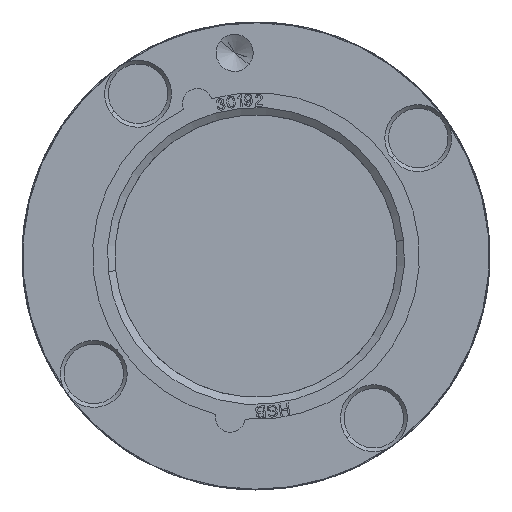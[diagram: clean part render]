
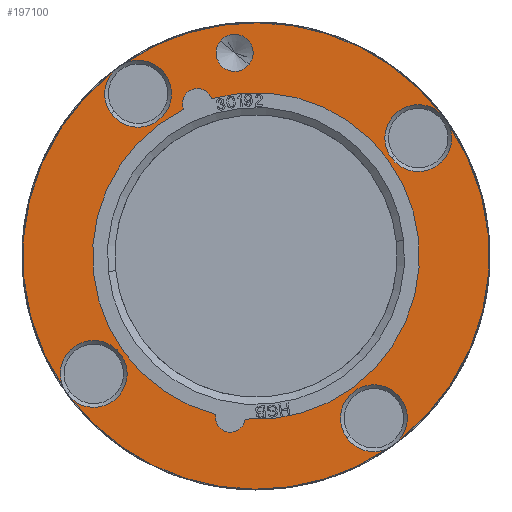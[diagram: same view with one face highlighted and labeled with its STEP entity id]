
A CAD part, left-side view. The second image highlights one B-rep face of the part: STEP entity #197100.
In plain terms, the highlighted planar face has unit normal (-1, 0, 0).
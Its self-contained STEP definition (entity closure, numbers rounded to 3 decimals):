
#195200=CARTESIAN_POINT('',(0.,-21.006,
6.538));
#195210=VERTEX_POINT('',#195200);
#195240=CARTESIAN_POINT('',(0.,0.,
0.));
#195250=DIRECTION('',(-1.,0.,0.));
#195260=DIRECTION('',(0.,-0.383,
0.924));
#195270=AXIS2_PLACEMENT_3D('',#195240,#195250,#195260);
#195280=CIRCLE('',#195270,22.);
#195290=CARTESIAN_POINT('',(0.,11.752,
-18.598));
#195300=VERTEX_POINT('',#195290);
#195310=EDGE_CURVE('',#195300,#195210,#195280,.T.);
#195420=CARTESIAN_POINT('',(0.,0.,
0.));
#195430=DIRECTION('',(-1.,0.,0.));
#195440=DIRECTION('',(0.,-0.383,
0.924));
#195450=AXIS2_PLACEMENT_3D('',#195420,#195430,#195440);
#195460=CIRCLE('',#195450,22.);
#195470=CARTESIAN_POINT('',(0.,-19.477,
10.23));
#195480=VERTEX_POINT('',#195470);
#195490=CARTESIAN_POINT('',(0.,14.922,
-16.165));
#195500=VERTEX_POINT('',#195490);
#195510=EDGE_CURVE('',#195480,#195500,#195460,.T.);
#195770=CARTESIAN_POINT('',(0.,-20.325,
8.419));
#195780=DIRECTION('',(-1.,0.,0.));
#195790=DIRECTION('',(0.,0.383,
0.924));
#195800=AXIS2_PLACEMENT_3D('',#195770,#195780,#195790);
#195810=CIRCLE('',#195800,2.);
#195820=EDGE_CURVE('',#195210,#195480,#195810,.T.);
#195870=CARTESIAN_POINT('',(0.,-28.096,
-12.471));
#195880=DIRECTION('',(-1.,0.,0.));
#195890=DIRECTION('',(0.,0.924,
-0.383));
#195900=AXIS2_PLACEMENT_3D('',#195870,#195880,#195890);
#195910=PLANE('',#195900);
#195920=CARTESIAN_POINT('',(0.,21.817,
-16.741));
#195930=DIRECTION('',(-1.,0.,0.));
#195940=DIRECTION('',(0.,-0.131,
0.991));
#195950=AXIS2_PLACEMENT_3D('',#195920,#195930,#195940);
#195960=CIRCLE('',#195950,2.5);
#195970=CARTESIAN_POINT('',(0.,21.491,
-14.262));
#195980=VERTEX_POINT('',#195970);
#195990=CARTESIAN_POINT('',(0.,22.144,
-19.22));
#196000=VERTEX_POINT('',#195990);
#196010=EDGE_CURVE('',#195980,#196000,#195960,.T.);
#196020=ORIENTED_EDGE('',*,*,#196010,.F.);
#196030=EDGE_CURVE('',#196000,#195980,#195960,.T.);
#196040=ORIENTED_EDGE('',*,*,#196030,.F.);
#196050=EDGE_LOOP('',(#196040,#196020));
#196060=FACE_BOUND('',#196050,.T.);
#196070=ORIENTED_EDGE('',*,*,#195510,.F.);
#196080=CARTESIAN_POINT('',(0.,13.393,
-17.454));
#196090=DIRECTION('',(-1.,0.,0.));
#196100=DIRECTION('',(0.,0.793,
0.609));
#196110=AXIS2_PLACEMENT_3D('',#196080,#196090,#196100);
#196120=CIRCLE('',#196110,2.);
#196130=EDGE_CURVE('',#195500,#195300,#196120,.T.);
#196140=ORIENTED_EDGE('',*,*,#196130,.F.);
#196150=ORIENTED_EDGE('',*,*,#195310,.F.);
#196160=ORIENTED_EDGE('',*,*,#195820,.F.);
#196170=EDGE_LOOP('',(#196160,#196150,#196140,#196070));
#196180=FACE_BOUND('',#196170,.T.);
#196190=CARTESIAN_POINT('',(0.,-10.332,
24.945));
#196200=DIRECTION('',(-1.,0.,0.));
#196210=DIRECTION('',(0.,0.924,
0.383));
#196220=AXIS2_PLACEMENT_3D('',#196190,#196200,#196210);
#196230=CIRCLE('',#196220,4.5);
#196240=CARTESIAN_POINT('',(0.,-11.07,
29.384));
#196250=VERTEX_POINT('',#196240);
#196260=CARTESIAN_POINT('',(0.,-6.175,
26.667));
#196270=VERTEX_POINT('',#196260);
#196280=EDGE_CURVE('',#196250,#196270,#196230,.T.);
#196290=ORIENTED_EDGE('',*,*,#196280,.F.);
#196300=CARTESIAN_POINT('',(0.,-14.49,
23.223));
#196310=VERTEX_POINT('',#196300);
#196320=EDGE_CURVE('',#196270,#196310,#196230,.T.);
#196330=ORIENTED_EDGE('',*,*,#196320,.F.);
#196340=CARTESIAN_POINT('',(0.,-12.95,
28.605));
#196350=VERTEX_POINT('',#196340);
#196360=EDGE_CURVE('',#196310,#196350,#196230,.T.);
#196370=ORIENTED_EDGE('',*,*,#196360,.F.);
#196380=CARTESIAN_POINT('',(0.,0.,
0.));
#196390=DIRECTION('',(-1.,0.,0.));
#196400=DIRECTION('',(0.,0.924,
-0.383));
#196410=AXIS2_PLACEMENT_3D('',#196380,#196390,#196400);
#196420=CIRCLE('',#196410,31.4);
#196430=CARTESIAN_POINT('',(0.,-29.01,
12.016));
#196440=VERTEX_POINT('',#196430);
#196450=EDGE_CURVE('',#196440,#196350,#196420,.T.);
#196460=ORIENTED_EDGE('',*,*,#196450,.T.);
#196470=CARTESIAN_POINT('',(0.,-29.384,
-11.07));
#196480=VERTEX_POINT('',#196470);
#196490=EDGE_CURVE('',#196480,#196440,#196420,.T.);
#196500=ORIENTED_EDGE('',*,*,#196490,.T.);
#196510=CARTESIAN_POINT('',(0.,-24.945,
-10.332));
#196520=DIRECTION('',(-1.,0.,0.));
#196530=DIRECTION('',(0.,0.924,
0.383));
#196540=AXIS2_PLACEMENT_3D('',#196510,#196520,#196530);
#196550=CIRCLE('',#196540,4.5);
#196560=CARTESIAN_POINT('',(0.,-20.787,
-8.61));
#196570=VERTEX_POINT('',#196560);
#196580=EDGE_CURVE('',#196480,#196570,#196550,.T.);
#196590=ORIENTED_EDGE('',*,*,#196580,.F.);
#196600=CARTESIAN_POINT('',(0.,-28.605,
-12.95));
#196610=VERTEX_POINT('',#196600);
#196620=EDGE_CURVE('',#196570,#196610,#196550,.T.);
#196630=ORIENTED_EDGE('',*,*,#196620,.F.);
#196640=CARTESIAN_POINT('',(0.,11.07,
-29.384));
#196650=VERTEX_POINT('',#196640);
#196660=EDGE_CURVE('',#196650,#196610,#196420,.T.);
#196670=ORIENTED_EDGE('',*,*,#196660,.T.);
#196680=CARTESIAN_POINT('',(0.,10.332,
-24.945));
#196690=DIRECTION('',(-1.,0.,0.));
#196700=DIRECTION('',(0.,0.924,
0.383));
#196710=AXIS2_PLACEMENT_3D('',#196680,#196690,#196700);
#196720=CIRCLE('',#196710,4.5);
#196730=CARTESIAN_POINT('',(0.,6.175,
-26.667));
#196740=VERTEX_POINT('',#196730);
#196750=EDGE_CURVE('',#196650,#196740,#196720,.T.);
#196760=ORIENTED_EDGE('',*,*,#196750,.F.);
#196770=CARTESIAN_POINT('',(0.,14.49,
-23.223));
#196780=VERTEX_POINT('',#196770);
#196790=EDGE_CURVE('',#196740,#196780,#196720,.T.);
#196800=ORIENTED_EDGE('',*,*,#196790,.F.);
#196810=CARTESIAN_POINT('',(0.,12.95,
-28.605));
#196820=VERTEX_POINT('',#196810);
#196830=EDGE_CURVE('',#196780,#196820,#196720,.T.);
#196840=ORIENTED_EDGE('',*,*,#196830,.F.);
#196850=CARTESIAN_POINT('',(0.,29.01,
-12.016));
#196860=VERTEX_POINT('',#196850);
#196870=EDGE_CURVE('',#196860,#196820,#196420,.T.);
#196880=ORIENTED_EDGE('',*,*,#196870,.T.);
#196890=CARTESIAN_POINT('',(0.,29.384,
11.07));
#196900=VERTEX_POINT('',#196890);
#196910=EDGE_CURVE('',#196900,#196860,#196420,.T.);
#196920=ORIENTED_EDGE('',*,*,#196910,.T.);
#196930=CARTESIAN_POINT('',(0.,24.945,
10.332));
#196940=DIRECTION('',(-1.,0.,0.));
#196950=DIRECTION('',(0.,0.924,
0.383));
#196960=AXIS2_PLACEMENT_3D('',#196930,#196940,#196950);
#196970=CIRCLE('',#196960,4.5);
#196980=CARTESIAN_POINT('',(0.,20.787,
8.61));
#196990=VERTEX_POINT('',#196980);
#197000=EDGE_CURVE('',#196900,#196990,#196970,.T.);
#197010=ORIENTED_EDGE('',*,*,#197000,.F.);
#197020=CARTESIAN_POINT('',(0.,28.605,
12.95));
#197030=VERTEX_POINT('',#197020);
#197040=EDGE_CURVE('',#196990,#197030,#196970,.T.);
#197050=ORIENTED_EDGE('',*,*,#197040,.F.);
#197060=EDGE_CURVE('',#196250,#197030,#196420,.T.);
#197070=ORIENTED_EDGE('',*,*,#197060,.T.);
#197080=EDGE_LOOP('',(#197070,#197050,#197010,#196920,#196880,#196840,
#196800,#196760,#196670,#196630,#196590,#196500,#196460,#196370,#196330,
#196290));
#197090=FACE_OUTER_BOUND('',#197080,.T.);
#197100=ADVANCED_FACE('',(#196060,#196180,#197090),#195910,.T.);
